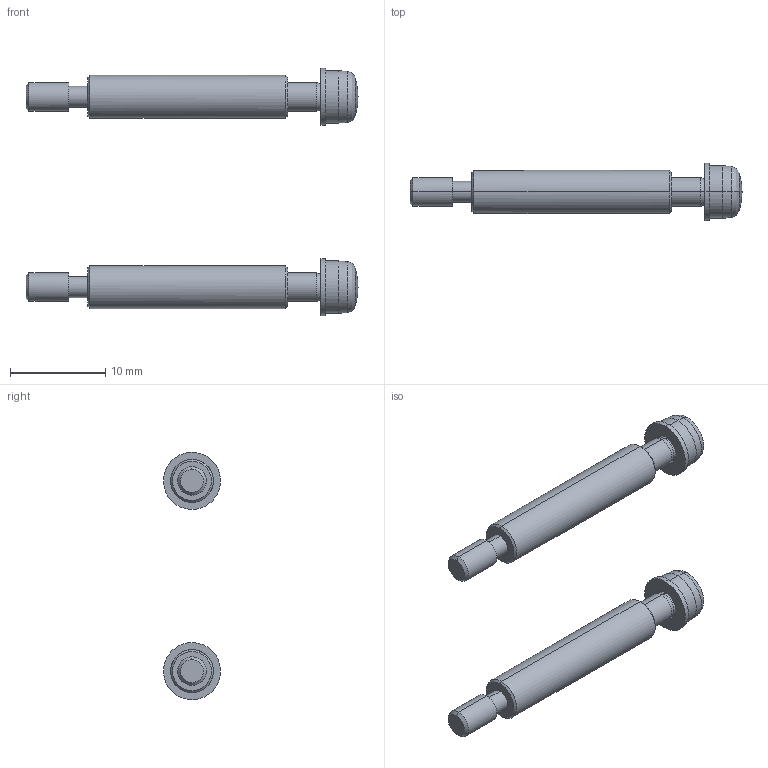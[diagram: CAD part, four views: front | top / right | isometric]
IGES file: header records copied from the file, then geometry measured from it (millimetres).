
Start section: ------------------------------------------------------------------------
Bounding box: 34.9 x 6 x 26 mm (x, y, z)
Volume: 875.2 mm3; surface area: 1382 mm2
Topology: 4 solids, 4 shells, 94 faces, 188 edges, 108 vertices
Faces by surface type: bspline 94
